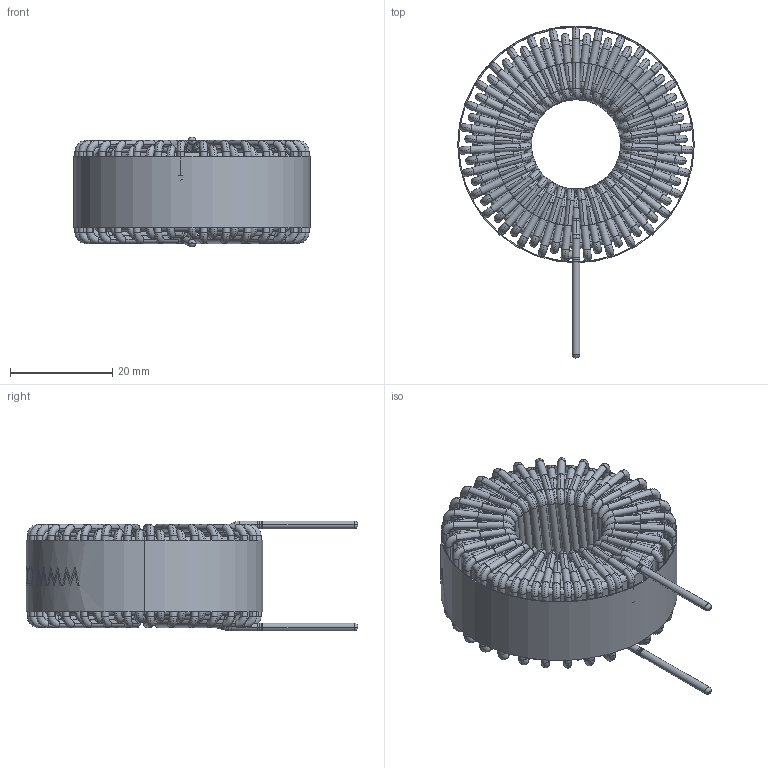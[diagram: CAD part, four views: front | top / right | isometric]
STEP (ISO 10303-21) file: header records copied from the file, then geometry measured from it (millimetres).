
FILE_DESCRIPTION (( 'STEP AP214' ), '1' );
FILE_NAME ('HF400-651M-8.0AV.STEP', '2021-03-05T09:47:18', ( '' ), ( '' ), 'SwSTEP 2.0', 'SolidWorks 2015', '' );
FILE_SCHEMA (( 'AUTOMOTIVE_DESIGN' ));
Length unit declared in the file: millimetre
Products named in the file (4): HF400-651M-8.0AV; WRAPPER; WINDING; CORE
Assembly tree (3 placements, depth 2):
  HF400-651M-8.0AV
    CORE
    WINDING
    WRAPPER
Bounding box: 46.3 x 64.96 x 21.52 mm (x, y, z)
Volume: 19660.3 mm3; surface area: 25197 mm2
Topology: 66 solids, 66 shells, 1478 faces, 3950 edges, 2622 vertices
Faces by surface type: cylinder 668, torus 532, plane 175, bspline 103
Entity records: 72886 total; most frequent: CARTESIAN_POINT 18368, DIRECTION 9303, ORIENTED_EDGE 7900, AXIS2_PLACEMENT_3D 4314, EDGE_CURVE 3950, CIRCLE 2933, VERTEX_POINT 2622, EDGE_LOOP 1500
